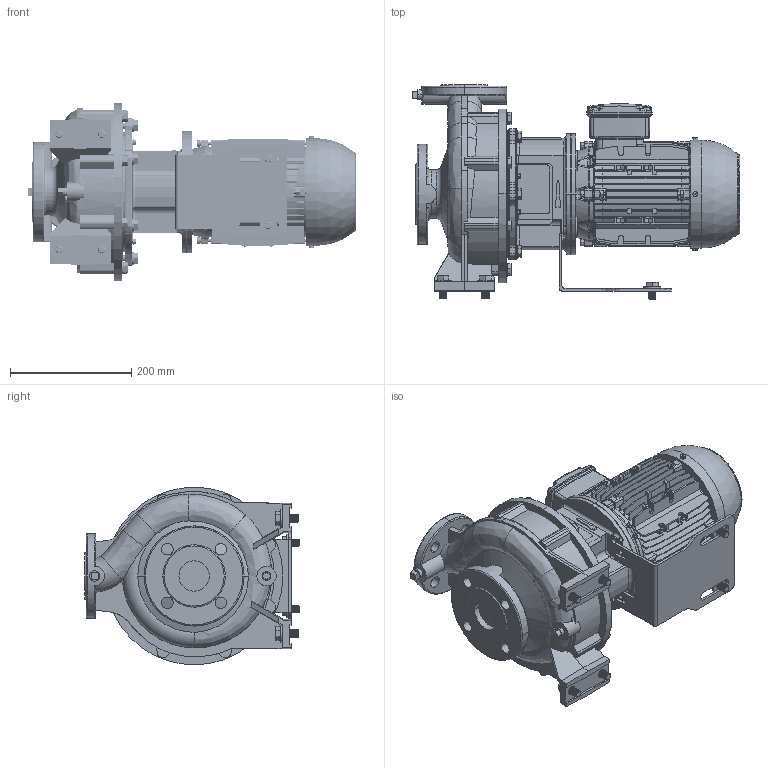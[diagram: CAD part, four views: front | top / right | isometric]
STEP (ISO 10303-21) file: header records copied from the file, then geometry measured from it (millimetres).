
FILE_DESCRIPTION (( 'STEP AP214' ), '1' );
FILE_NAME ('GSD4 32-200_1.1 & 1.5_(90SL)_W21.STEP', '2026-06-18T05:17:38', ( '' ), ( '' ), 'SwSTEP 2.0', 'SolidWorks 2024', '' );
FILE_SCHEMA (( 'AUTOMOTIVE_DESIGN' ));
Length unit declared in the file: millimetre
Products named in the file (7): Parametric bolt_SFT-A299B; 32-200-90S_L_ﾃﾞﾌｫﾙﾄ; 90S_L ALIE3_W21T_B5; GSD4 32-200_1.1 & 1.5_(90SL)_W21; Parametric bolt_SFT-A295B; CGSD1-4153; Parametric Flat Washer_M12
Assembly tree (15 placements, depth 2):
  GSD4 32-200_1.1 & 1.5_(90SL)_W21
    32-200-90S_L_ﾃﾞﾌｫﾙﾄ
    90S_L ALIE3_W21T_B5
    CGSD1-4153
    Parametric bolt_SFT-A299B  x4
    Parametric bolt_SFT-A295B  x2
    Parametric Flat Washer_M12  x6
Bounding box: 539.65 x 353 x 293 mm (x, y, z)
Volume: 13667591 mm3; surface area: 1264325.5 mm2
Topology: 24 solids, 28 shells, 3851 faces, 10114 edges, 6503 vertices
Faces by surface type: plane 1995, cylinder 1076, torus 302, bspline 255, cone 201, sphere 22
Entity records: 191075 total; most frequent: CARTESIAN_POINT 104512, ORIENTED_EDGE 18870, DIRECTION 16703, EDGE_CURVE 9435, VERTEX_POINT 6090, AXIS2_PLACEMENT_3D 5637, LINE 5429, VECTOR 5429
